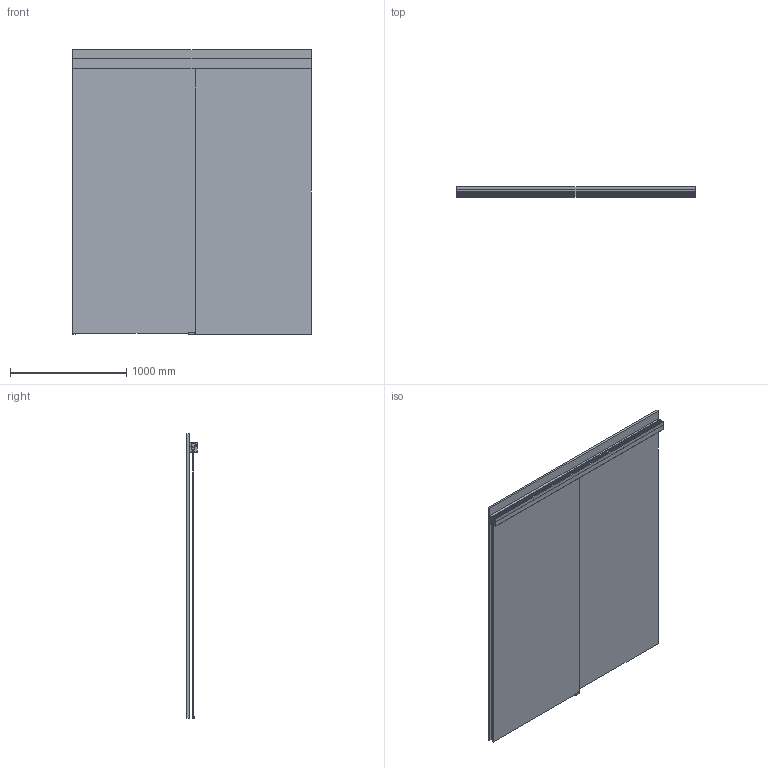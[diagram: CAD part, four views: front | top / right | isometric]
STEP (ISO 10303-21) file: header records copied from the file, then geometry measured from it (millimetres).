
FILE_DESCRIPTION(('STEP AP242'),'1');
FILE_NAME('OPO_56.047.06.stp','2026-01-14T05:22:11',(' '),(' '),'Spatial InterOp 3D',' ',' ');
FILE_SCHEMA(('AP242_MANAGED_MODEL_BASED_3D_ENGINEERING_MIM_LF {1 0 10303 442 1 1 4}'));
Length unit declared in the file: millimetre
Products named in the file (10): Zeichnung2; OPO_56.047.06_Bodenfuehrung_Glas; OPO_65.083.42; OPO_65.082.78; OPO_56.047.06_Laufwerk; OPO_56.047.06_Laufwerk_mit_Daempfer; OPO_56.047.06_Aktivator; OPO_65.082.57; OPO_65.082.57_SCALED_id348_X-1_Y1_Z1; AutoCreatedBlock_1C4
Assembly tree (12 placements, depth 2):
  Zeichnung2
    OPO_56.047.06_Bodenfuehrung_Glas
    OPO_65.083.42  x2
    OPO_65.082.78  x2
    OPO_56.047.06_Laufwerk
    OPO_56.047.06_Laufwerk_mit_Daempfer
    OPO_56.047.06_Aktivator  x2
    OPO_65.082.57
    OPO_65.082.57_SCALED_id348_X-1_Y1_Z1
    AutoCreatedBlock_1C4
Bounding box: 2050 x 86 x 2448 mm (x, y, z)
Volume: 78783718.9 mm3; surface area: 12121420.2 mm2
Topology: 75 solids, 75 shells, 1603 faces, 4074 edges, 2692 vertices
Faces by surface type: plane 935, cylinder 640, cone 28
Entity records: 47329 total; most frequent: CARTESIAN_POINT 6603, DIRECTION 6587, ORIENTED_EDGE 6174, EDGE_CURVE 3087, AXIS2_PLACEMENT_3D 2266, LINE 2055, VECTOR 2055, VERTEX_POINT 2044
